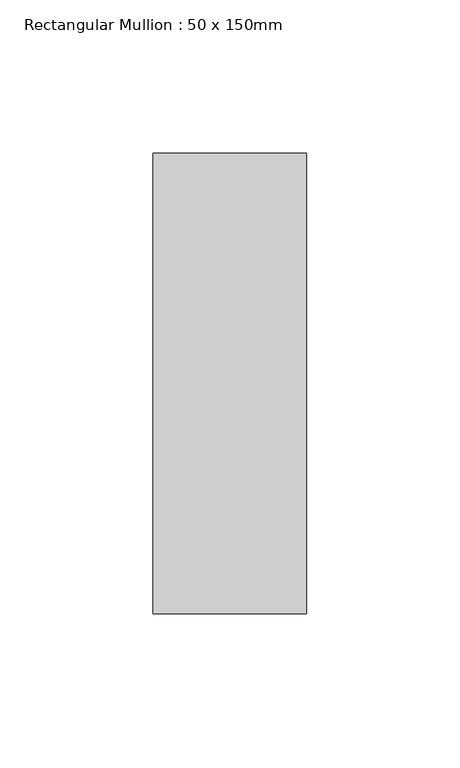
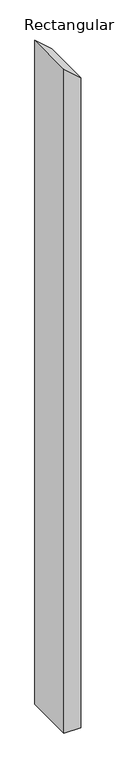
"""IFC4 building model written with IfcOpenShell, lengths in millimetres: member geometry, Rectangular Mullion : 50 x 150mm."""

from ifc_helpers import new_model, si_unit, frame, origin, place, context, project, spatial, polyline, outline, extrude, source, transform, mapped, element, save


def rectangular_mullion_50_x_150mm_1ac69e8a(model_context):
    return source(origin(), model_context, "Body", "SweptSolid", [
        extrude(outline(polyline([(-88.415239, 25.0), (-44.5773716, -25.0), (-2136.7838607, -25.0), (-2136.7838607, 25.0), (-88.415239, 25.0)])), frame((0.0, -75.0, 0.0), z_axis=(0.0, 1.0, 0.0), x_axis=(0.0, 0.0, 1.0)), (0.0, 0.0, 1.0), 150.0),
    ])


if __name__ == "__main__":
    model = new_model("IFC4")
    model_context = context("Model", 3, world=origin())
    ifc_project = project(units=[si_unit("LENGTHUNIT", "METRE", prefix="MILLI")], contexts=[model_context])
    site = spatial("IfcSite", under=ifc_project)
    building = spatial("IfcBuilding", under=site)
    placement = place(None, origin())
    rectangular_mullion_50_x_150mm_shape = rectangular_mullion_50_x_150mm_1ac69e8a(model_context)
    element("IfcMember", 1, ObjectType="Rectangular Mullion : 50 x 150mm", at=placement, inside=building, context=model_context, shape_type="MappedRepresentation", body=[
        mapped(rectangular_mullion_50_x_150mm_shape, transform((0.0, 0.0, 0.0), x_axis=(1.0, 0.0, 0.0), y_axis=(0.0, 1.0, 0.0), z_axis=(0.0, 0.0, 1.0))),
    ])
    save(model, "model.ifc")
